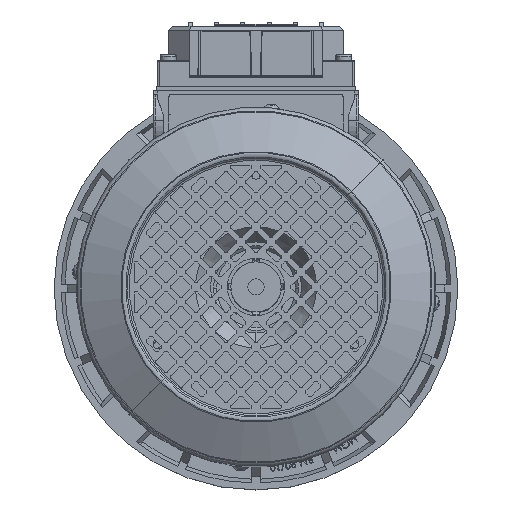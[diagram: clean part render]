
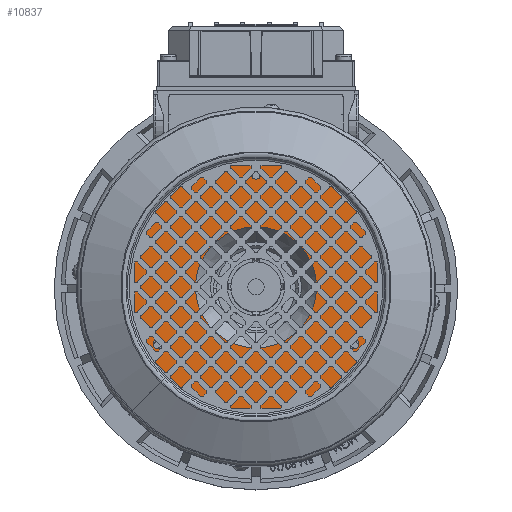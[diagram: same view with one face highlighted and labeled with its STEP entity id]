
A CAD part, top view. The second image highlights one B-rep face of the part: STEP entity #10837.
In plain terms, the highlighted planar face has unit normal (0, 0, 1) as drawn and (0, 1, 0) by its records, which use the part's own axes.
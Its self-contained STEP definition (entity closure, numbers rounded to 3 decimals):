
#848 = AXIS2_PLACEMENT_3D ( 'NONE', #33918, #96741, #42973 ) ;
#2630 = DIRECTION ( 'NONE',  ( 0., 1., 0. ) ) ;
#3286 = AXIS2_PLACEMENT_3D ( 'NONE', #97997, #44199, #106994 ) ;
#4215 = CARTESIAN_POINT ( 'NONE',  ( 0., 36., 30. ) ) ;
#5135 = EDGE_CURVE ( 'NONE', #81004, #105796, #110901, .T. ) ;
#5601 = CIRCLE ( 'NONE', #34511, 30. ) ;
#5896 = AXIS2_PLACEMENT_3D ( 'NONE', #114546, #60725, #6866 ) ;
#6393 = VERTEX_POINT ( 'NONE', #116454 ) ;
#6866 = DIRECTION ( 'NONE',  ( 0., 0., 1. ) ) ;
#8093 = CARTESIAN_POINT ( 'NONE',  ( 0., 36., -67.5 ) ) ;
#9863 = CARTESIAN_POINT ( 'NONE',  ( 0., 36., 0. ) ) ;
#10348 = DIRECTION ( 'NONE',  ( 0., 1., 0. ) ) ;
#10837 = ADVANCED_FACE ( 'NONE', ( #108574, #60820, #12996, #105728, #81850 ), #28437, .F. ) ;
#12996 = FACE_BOUND ( 'NONE', #48545, .T. ) ;
#13499 = CIRCLE ( 'NONE', #848, 2.5 ) ;
#15071 = AXIS2_PLACEMENT_3D ( 'NONE', #70071, #16267, #79050 ) ;
#15413 = CIRCLE ( 'NONE', #25943, 2.5 ) ;
#16267 = DIRECTION ( 'NONE',  ( 0., 1., 0. ) ) ;
#18544 = VERTEX_POINT ( 'NONE', #78410 ) ;
#18938 = DIRECTION ( 'NONE',  ( 0., 0., 1. ) ) ;
#19808 = DIRECTION ( 'NONE',  ( 0., -1., 0. ) ) ;
#22032 = VERTEX_POINT ( 'NONE', #84425 ) ;
#22137 = CARTESIAN_POINT ( 'NONE',  ( 0., 36., 0. ) ) ;
#25943 = AXIS2_PLACEMENT_3D ( 'NONE', #56478, #2630, #65531 ) ;
#28437 = PLANE ( 'NONE',  #106635 ) ;
#30208 = VERTEX_POINT ( 'NONE', #8093 ) ;
#31145 = DIRECTION ( 'NONE',  ( 0., 0., 1. ) ) ;
#32645 = VERTEX_POINT ( 'NONE', #93945 ) ;
#32696 = DIRECTION ( 'NONE',  ( 0., 1., 0. ) ) ;
#33918 = CARTESIAN_POINT ( 'NONE',  ( 48.497, 36., -28. ) ) ;
#34042 = ORIENTED_EDGE ( 'NONE', *, *, #5135, .F. ) ;
#34511 = AXIS2_PLACEMENT_3D ( 'NONE', #22137, #84957, #31145 ) ;
#34621 = AXIS2_PLACEMENT_3D ( 'NONE', #86498, #32696, #95536 ) ;
#37832 = DIRECTION ( 'NONE',  ( 0., 1., 0. ) ) ;
#38821 = VERTEX_POINT ( 'NONE', #90127 ) ;
#41815 = ORIENTED_EDGE ( 'NONE', *, *, #80458, .F. ) ;
#42973 = DIRECTION ( 'NONE',  ( 0., 0., 1. ) ) ;
#44199 = DIRECTION ( 'NONE',  ( 0., 1., 0. ) ) ;
#48545 = EDGE_LOOP ( 'NONE', ( #89095, #75400 ) ) ;
#55292 = CIRCLE ( 'NONE', #112588, 67.5 ) ;
#56478 = CARTESIAN_POINT ( 'NONE',  ( 0., 36., 56. ) ) ;
#60164 = EDGE_CURVE ( 'NONE', #32645, #38821, #113266, .T. ) ;
#60725 = DIRECTION ( 'NONE',  ( 0., 1., 0. ) ) ;
#60820 = FACE_BOUND ( 'NONE', #61406, .T. ) ;
#61406 = EDGE_LOOP ( 'NONE', ( #109624, #64548 ) ) ;
#61823 = EDGE_CURVE ( 'NONE', #105796, #81004, #72048, .T. ) ;
#63547 = ORIENTED_EDGE ( 'NONE', *, *, #61823, .F. ) ;
#64198 = CARTESIAN_POINT ( 'NONE',  ( 0., 36., 56. ) ) ;
#64548 = ORIENTED_EDGE ( 'NONE', *, *, #93317, .F. ) ;
#65531 = DIRECTION ( 'NONE',  ( 0., 0., 1. ) ) ;
#65920 = CIRCLE ( 'NONE', #34621, 30. ) ;
#68361 = CARTESIAN_POINT ( 'NONE',  ( -48.497, 36., -30.5 ) ) ;
#70071 = CARTESIAN_POINT ( 'NONE',  ( -48.497, 36., -28. ) ) ;
#70206 = ORIENTED_EDGE ( 'NONE', *, *, #76213, .T. ) ;
#70364 = CARTESIAN_POINT ( 'NONE',  ( 0., 36., -30. ) ) ;
#72048 = CIRCLE ( 'NONE', #15071, 2.5 ) ;
#72785 = DIRECTION ( 'NONE',  ( 0., 1., 0. ) ) ;
#73260 = DIRECTION ( 'NONE',  ( 0., 0., 1. ) ) ;
#73651 = CARTESIAN_POINT ( 'NONE',  ( 30., 36., 0. ) ) ;
#75400 = ORIENTED_EDGE ( 'NONE', *, *, #60164, .F. ) ;
#76213 = EDGE_CURVE ( 'NONE', #22032, #30208, #55292, .T. ) ;
#78410 = CARTESIAN_POINT ( 'NONE',  ( 48.497, 36., -30.5 ) ) ;
#78800 = EDGE_CURVE ( 'NONE', #30208, #22032, #78814, .T. ) ;
#78814 = CIRCLE ( 'NONE', #5896, 67.5 ) ;
#79050 = DIRECTION ( 'NONE',  ( 0., 0., 1. ) ) ;
#79967 = EDGE_LOOP ( 'NONE', ( #34042, #63547 ) ) ;
#80458 = EDGE_CURVE ( 'NONE', #90125, #112968, #65920, .T. ) ;
#81004 = VERTEX_POINT ( 'NONE', #89984 ) ;
#81850 = FACE_OUTER_BOUND ( 'NONE', #109535, .T. ) ;
#82375 = EDGE_CURVE ( 'NONE', #6393, #18544, #13499, .T. ) ;
#82626 = DIRECTION ( 'NONE',  ( 0., 0., -1. ) ) ;
#84425 = CARTESIAN_POINT ( 'NONE',  ( 0., 36., 67.5 ) ) ;
#84884 = AXIS2_PLACEMENT_3D ( 'NONE', #64198, #10348, #73260 ) ;
#84957 = DIRECTION ( 'NONE',  ( 0., 1., 0. ) ) ;
#86498 = CARTESIAN_POINT ( 'NONE',  ( 0., 36., 0. ) ) ;
#86660 = ORIENTED_EDGE ( 'NONE', *, *, #78800, .T. ) ;
#88042 = ORIENTED_EDGE ( 'NONE', *, *, #99682, .F. ) ;
#89095 = ORIENTED_EDGE ( 'NONE', *, *, #104566, .F. ) ;
#89984 = CARTESIAN_POINT ( 'NONE',  ( -48.497, 36., -25.5 ) ) ;
#90125 = VERTEX_POINT ( 'NONE', #4215 ) ;
#90127 = CARTESIAN_POINT ( 'NONE',  ( 0., 36., 58.5 ) ) ;
#91636 = CARTESIAN_POINT ( 'NONE',  ( -48.497, 36., -28. ) ) ;
#93317 = EDGE_CURVE ( 'NONE', #18544, #6393, #115107, .T. ) ;
#93945 = CARTESIAN_POINT ( 'NONE',  ( 0., 36., 53.5 ) ) ;
#95536 = DIRECTION ( 'NONE',  ( 0., 0., 1. ) ) ;
#96741 = DIRECTION ( 'NONE',  ( 0., 1., 0. ) ) ;
#97997 = CARTESIAN_POINT ( 'NONE',  ( 48.497, 36., -28. ) ) ;
#99682 = EDGE_CURVE ( 'NONE', #112968, #90125, #5601, .T. ) ;
#100655 = DIRECTION ( 'NONE',  ( 0., 0., 1. ) ) ;
#104145 = AXIS2_PLACEMENT_3D ( 'NONE', #91636, #37832, #100655 ) ;
#104566 = EDGE_CURVE ( 'NONE', #38821, #32645, #15413, .T. ) ;
#105728 = FACE_BOUND ( 'NONE', #113126, .T. ) ;
#105796 = VERTEX_POINT ( 'NONE', #68361 ) ;
#106635 = AXIS2_PLACEMENT_3D ( 'NONE', #73651, #19808, #82626 ) ;
#106994 = DIRECTION ( 'NONE',  ( 0., 0., 1. ) ) ;
#108574 = FACE_BOUND ( 'NONE', #79967, .T. ) ;
#109535 = EDGE_LOOP ( 'NONE', ( #70206, #86660 ) ) ;
#109624 = ORIENTED_EDGE ( 'NONE', *, *, #82375, .F. ) ;
#110901 = CIRCLE ( 'NONE', #104145, 2.5 ) ;
#112588 = AXIS2_PLACEMENT_3D ( 'NONE', #9863, #72785, #18938 ) ;
#112968 = VERTEX_POINT ( 'NONE', #70364 ) ;
#113126 = EDGE_LOOP ( 'NONE', ( #41815, #88042 ) ) ;
#113266 = CIRCLE ( 'NONE', #84884, 2.5 ) ;
#114546 = CARTESIAN_POINT ( 'NONE',  ( 0., 36., 0. ) ) ;
#115107 = CIRCLE ( 'NONE', #3286, 2.5 ) ;
#116454 = CARTESIAN_POINT ( 'NONE',  ( 48.497, 36., -25.5 ) ) ;
